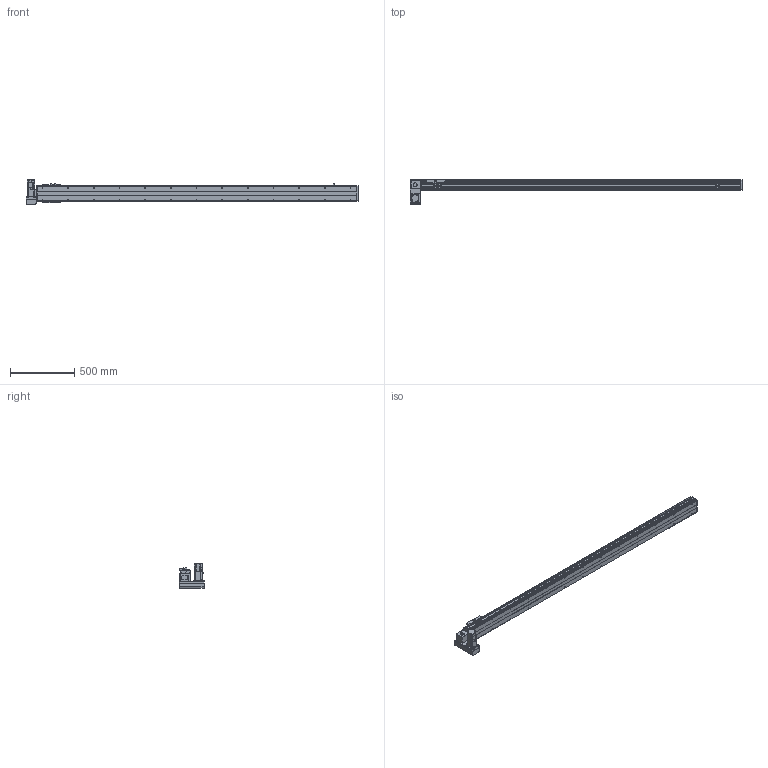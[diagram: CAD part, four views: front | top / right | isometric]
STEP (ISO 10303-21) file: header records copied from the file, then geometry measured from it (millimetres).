
FILE_DESCRIPTION( ( 'STEP AP214' ), '1' );
FILE_NAME( 'x:/temp/worker_6/temp/exporttempdir_3468_11_Dq2Jw/format_0/PBS120-P40-S2200-LD-T40-C1-N(0).stp', '2022-06-08T08:13:34', ( 'License CC BY-ND 4.0' ), ( 'CADENAS' ), ' ', 'PARTsolutions', ' ' );
FILE_SCHEMA( ( 'AUTOMOTIVE_DESIGN { 1 0 10303 214 1 1 1 1 }' ) );
Length unit declared in the file: millimetre
Products named in the file (7): PBS120-P40-S2200-LD-T40-C1-N(0); _PBS120-S2200()_body; _PBS120T-LD_motors; _T40-p1; _PBS120_sliser; _PBS120_plant; _PBS120_sensor
Assembly tree (8 placements, depth 2):
  PBS120-P40-S2200-LD-T40-C1-N(0)
    _PBS120-S2200()_body
    _PBS120T-LD_motors
    _T40-p1
    _PBS120_sliser
    _PBS120_plant
    _PBS120_sensor  x3
Bounding box: 2586 x 196 x 189.7 mm (x, y, z)
Volume: 9867343.6 mm3; surface area: 2025451.3 mm2
Topology: 8 solids, 8 shells, 858 faces, 2206 edges, 1417 vertices
Faces by surface type: plane 559, cylinder 239, cone 58, torus 2
Full cylindrical faces by diameter (mm): 2.459 x6, 3.242 x4, 4 x2, 4.134 x4, 4.5 x10, 4.917 x30, 5.5 x11, 6 x2, 6.6 x1, 7 x2, 8.5 x4, 9 x4, 12 x1, 14 x1, 30 x2, 40 x1, 50 x2
Entity records: 28164 total; most frequent: DIRECTION 3860, CARTESIAN_POINT 3767, ORIENTED_EDGE 3562, EDGE_CURVE 1781, AXIS2_PLACEMENT_3D 1316, LINE 1228, VECTOR 1228, VERTEX_POINT 1223
